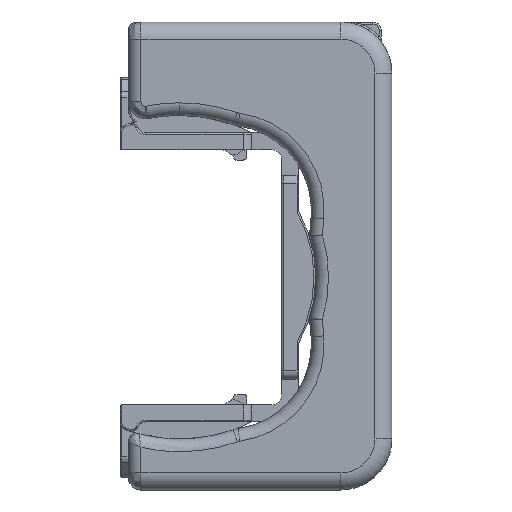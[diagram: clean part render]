
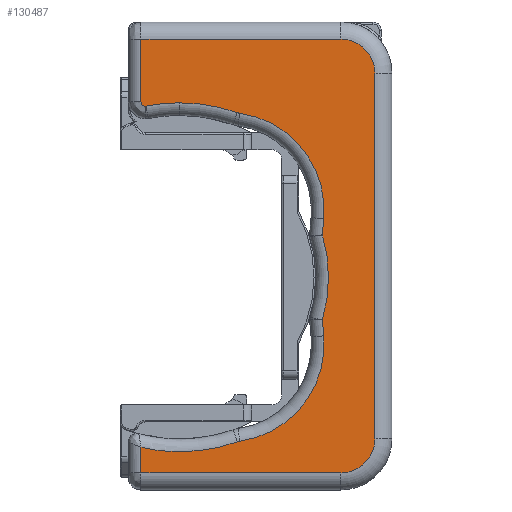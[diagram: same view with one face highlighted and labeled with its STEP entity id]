
A CAD part, left-side view. The second image highlights one B-rep face of the part: STEP entity #130487.
In plain terms, the highlighted planar face has unit normal (-1, 0, 0).
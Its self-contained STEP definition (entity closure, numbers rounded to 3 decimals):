
#8499=CARTESIAN_POINT('',(-33.637,-8.713,
3.331));
#9375=DIRECTION('',(0.,-1.,0.));
#9376=VECTOR('',#9375,23.5);
#9377=CARTESIAN_POINT('',(-33.637,12.605,26.356));
#9378=LINE('',#9377,#9376);
#10033=CARTESIAN_POINT('',(-33.637,12.605,
-21.635));
#10057=DIRECTION('',(0.,0.,1.));
#10058=VECTOR('',#10057,3.009);
#10059=CARTESIAN_POINT('',(-33.637,12.605,
-24.644));
#10060=LINE('',#10059,#10058);
#10716=DIRECTION('',(0.,0.,-1.));
#10717=VECTOR('',#10716,43.);
#10718=CARTESIAN_POINT('',(-33.637,-14.895,
22.356));
#10719=LINE('',#10718,#10717);
#12279=CARTESIAN_POINT('',(-33.637,-8.713,
-6.619));
#19847=DIRECTION('',(0.,0.,1.));
#19848=VECTOR('',#19847,7.392);
#19849=CARTESIAN_POINT('',(-33.637,12.605,
18.964));
#19850=LINE('',#19849,#19848);
#22226=DIRECTION('',(0.,1.,0.));
#22227=VECTOR('',#22226,23.5);
#22228=CARTESIAN_POINT('',(-33.637,-10.895,
-24.644));
#22229=LINE('',#22228,#22227);
#26856=CARTESIAN_POINT('',(-33.637,-10.895,
22.356));
#26857=DIRECTION('',(-1.,0.,0.));
#26858=DIRECTION('',(0.,-1.,0.));
#26859=AXIS2_PLACEMENT_3D('',#26856,#26857,#26858);
#26864=CARTESIAN_POINT('',(-33.637,-10.895,
-20.644));
#26865=DIRECTION('',(-1.,0.,0.));
#26866=DIRECTION('',(0.,0.,-1.));
#26867=AXIS2_PLACEMENT_3D('',#26864,#26865,#26866);
#26872=CARTESIAN_POINT('',(-33.637,8.065,
-1.644));
#26873=DIRECTION('',(1.,0.,0.));
#26874=DIRECTION('',(0.,0.,-1.));
#26875=AXIS2_PLACEMENT_3D('',#26872,#26873,#26874);
#26880=CARTESIAN_POINT('',(-33.637,8.065,
-1.644));
#26881=DIRECTION('',(1.,0.,0.));
#26882=DIRECTION('',(0.,-0.331,-0.944));
#26883=AXIS2_PLACEMENT_3D('',#26880,#26881,#26882);
#26888=CARTESIAN_POINT('',(-33.637,0.78,
-22.403));
#26889=DIRECTION('',(-1.,0.,0.));
#26890=DIRECTION('',(0.,0.138,0.99));
#26891=AXIS2_PLACEMENT_3D('',#26888,#26889,#26890);
#26896=CARTESIAN_POINT('',(-33.637,2.577,
-9.527));
#26897=DIRECTION('',(1.,0.,0.));
#26898=DIRECTION('',(0.,-0.996,0.087));
#26899=AXIS2_PLACEMENT_3D('',#26896,#26897,#26898);
#26904=DIRECTION('',(0.,-0.087,-0.996));
#26905=VECTOR('',#26904,1.914);
#26906=CARTESIAN_POINT('',(-33.637,-8.713,
-6.619));
#26907=LINE('',#26906,#26905);
#26911=CARTESIAN_POINT('',(-33.637,8.065,
-1.644));
#26912=DIRECTION('',(1.,0.,0.));
#26913=DIRECTION('',(0.,-0.959,0.284));
#26914=AXIS2_PLACEMENT_3D('',#26911,#26912,#26913);
#26919=DIRECTION('',(0.,0.087,-0.996));
#26920=VECTOR('',#26919,1.914);
#26921=CARTESIAN_POINT('',(-33.637,-8.88,
5.237));
#26922=LINE('',#26921,#26920);
#26926=CARTESIAN_POINT('',(-33.637,2.577,
6.24));
#26927=DIRECTION('',(1.,0.,0.));
#26928=DIRECTION('',(0.,-0.138,0.99));
#26929=AXIS2_PLACEMENT_3D('',#26926,#26927,#26928);
#26934=CARTESIAN_POINT('',(-33.637,0.78,
19.115));
#26935=DIRECTION('',(-1.,0.,0.));
#26936=DIRECTION('',(0.,0.331,-0.944));
#26937=AXIS2_PLACEMENT_3D('',#26934,#26935,#26936);
#26942=CARTESIAN_POINT('',(-33.637,8.065,
-1.644));
#26943=DIRECTION('',(1.,0.,0.));
#26944=DIRECTION('',(0.,0.,1.));
#26945=AXIS2_PLACEMENT_3D('',#26942,#26943,#26944);
#26950=CARTESIAN_POINT('',(-33.637,8.065,
-1.644));
#26951=DIRECTION('',(1.,0.,0.));
#26952=DIRECTION('',(0.,0.192,0.981));
#26953=AXIS2_PLACEMENT_3D('',#26950,#26951,#26952);
#26958=CARTESIAN_POINT('',(-33.637,12.105,
18.964));
#26959=DIRECTION('',(-1.,0.,0.));
#26960=DIRECTION('',(0.,0.,-1.));
#26961=AXIS2_PLACEMENT_3D('',#26958,#26959,#26960);
#26966=CARTESIAN_POINT('',(-33.637,12.105,
18.964));
#26967=DIRECTION('',(-1.,0.,0.));
#26968=DIRECTION('',(0.,1.,0.));
#26969=AXIS2_PLACEMENT_3D('',#26966,#26967,#26968);
#85545=CARTESIAN_POINT('',(-33.637,-14.895,
22.356));
#85547=VERTEX_POINT('',#85545);
#85565=CARTESIAN_POINT('',(-33.637,-10.895,
-24.644));
#85566=CARTESIAN_POINT('',(-33.637,12.605,
-24.644));
#85567=VERTEX_POINT('',#85565);
#85568=VERTEX_POINT('',#85566);
#85809=VERTEX_POINT('',#10033);
#86120=CARTESIAN_POINT('',(-33.637,1.277,
17.7));
#86121=CARTESIAN_POINT('',(-33.637,0.987,
17.629));
#86122=VERTEX_POINT('',#86120);
#86123=VERTEX_POINT('',#86121);
#86273=CARTESIAN_POINT('',(-33.637,-8.88,
-8.525));
#86274=CARTESIAN_POINT('',(-33.637,0.987,
-20.917));
#86275=VERTEX_POINT('',#86273);
#86276=VERTEX_POINT('',#86274);
#86518=CARTESIAN_POINT('',(-33.637,-14.895,
-20.644));
#86519=VERTEX_POINT('',#86518);
#86595=CARTESIAN_POINT('',(-33.637,-8.88,
5.237));
#86596=VERTEX_POINT('',#86595);
#87095=CARTESIAN_POINT('',(-33.637,12.105,
18.464));
#87096=CARTESIAN_POINT('',(-33.637,12.009,
18.473));
#87097=VERTEX_POINT('',#87095);
#87098=VERTEX_POINT('',#87096);
#87573=CARTESIAN_POINT('',(-33.637,12.605,
26.356));
#87575=VERTEX_POINT('',#87573);
#87795=VERTEX_POINT('',#12279);
#87837=CARTESIAN_POINT('',(-33.637,1.277,
-20.987));
#87838=VERTEX_POINT('',#87837);
#87926=CARTESIAN_POINT('',(-33.637,8.065,
18.856));
#87927=VERTEX_POINT('',#87926);
#87960=CARTESIAN_POINT('',(-33.637,12.605,
18.964));
#87961=VERTEX_POINT('',#87960);
#88044=CARTESIAN_POINT('',(-33.637,-10.895,
26.356));
#88045=VERTEX_POINT('',#88044);
#88094=CARTESIAN_POINT('',(-33.637,8.065,
-22.144));
#88095=VERTEX_POINT('',#88094);
#88169=VERTEX_POINT('',#8499);
#130460=CARTESIAN_POINT('',(-33.637,-14.199,
-1.644));
#130461=DIRECTION('',(-1.,0.,0.));
#130462=DIRECTION('',(0.,0.,1.));
#130463=AXIS2_PLACEMENT_3D('',#130460,#130461,#130462);
#130464=PLANE('',#130463);
#130465=ORIENTED_EDGE('',*,*,#107852,.T.);
#130466=ORIENTED_EDGE('',*,*,#123341,.F.);
#130467=ORIENTED_EDGE('',*,*,#109755,.T.);
#130468=ORIENTED_EDGE('',*,*,#120044,.F.);
#130469=ORIENTED_EDGE('',*,*,#123710,.T.);
#130470=ORIENTED_EDGE('',*,*,#108628,.T.);
#130471=ORIENTED_EDGE('',*,*,#98335,.F.);
#130472=ORIENTED_EDGE('',*,*,#98333,.F.);
#130473=ORIENTED_EDGE('',*,*,#129733,.F.);
#130474=ORIENTED_EDGE('',*,*,#127990,.F.);
#130475=ORIENTED_EDGE('',*,*,#111625,.F.);
#130476=ORIENTED_EDGE('',*,*,#111484,.F.);
#130477=ORIENTED_EDGE('',*,*,#106569,.F.);
#130478=ORIENTED_EDGE('',*,*,#115162,.F.);
#130479=ORIENTED_EDGE('',*,*,#120197,.F.);
#130480=ORIENTED_EDGE('',*,*,#109946,.F.);
#130481=ORIENTED_EDGE('',*,*,#109804,.F.);
#130482=ORIENTED_EDGE('',*,*,#111661,.F.);
#130483=ORIENTED_EDGE('',*,*,#121483,.F.);
#130484=ORIENTED_EDGE('',*,*,#120701,.T.);
#130485=EDGE_LOOP('',(#130465,#130466,#130467,#130468,#130469,#130470,#130471,
#130472,#130473,#130474,#130475,#130476,#130477,#130478,#130479,#130480,#130481,
#130482,#130483,#130484));
#130486=FACE_OUTER_BOUND('',#130485,.F.);
#26860=CIRCLE('',#26859,4.);
#26868=CIRCLE('',#26867,4.);
#26876=CIRCLE('',#26875,20.5);
#26884=CIRCLE('',#26883,20.5);
#26892=CIRCLE('',#26891,1.5);
#26900=CIRCLE('',#26899,11.5);
#26915=CIRCLE('',#26914,17.5);
#26930=CIRCLE('',#26929,11.5);
#26938=CIRCLE('',#26937,1.5);
#26946=CIRCLE('',#26945,20.5);
#26954=CIRCLE('',#26953,20.5);
#26962=CIRCLE('',#26961,0.5);
#26970=CIRCLE('',#26969,0.5);
#98333=EDGE_CURVE('',#87838,#88095,#26884,.T.);
#98335=EDGE_CURVE('',#88095,#85809,#26876,.T.);
#106569=EDGE_CURVE('',#86596,#88169,#26922,.T.);
#107852=EDGE_CURVE('',#87575,#88045,#9378,.T.);
#108628=EDGE_CURVE('',#85568,#85809,#10060,.T.);
#109755=EDGE_CURVE('',#85547,#86519,#10719,.T.);
#109804=EDGE_CURVE('',#87098,#87927,#26954,.T.);
#109946=EDGE_CURVE('',#87927,#86122,#26946,.T.);
#111484=EDGE_CURVE('',#88169,#87795,#26915,.T.);
#111625=EDGE_CURVE('',#87795,#86275,#26907,.T.);
#111661=EDGE_CURVE('',#87097,#87098,#26962,.T.);
#115162=EDGE_CURVE('',#86123,#86596,#26930,.T.);
#120044=EDGE_CURVE('',#85567,#86519,#26868,.T.);
#120197=EDGE_CURVE('',#86122,#86123,#26938,.T.);
#120701=EDGE_CURVE('',#87961,#87575,#19850,.T.);
#121483=EDGE_CURVE('',#87961,#87097,#26970,.T.);
#123341=EDGE_CURVE('',#85547,#88045,#26860,.T.);
#123710=EDGE_CURVE('',#85567,#85568,#22229,.T.);
#127990=EDGE_CURVE('',#86275,#86276,#26900,.T.);
#129733=EDGE_CURVE('',#86276,#87838,#26892,.T.);
#130487=ADVANCED_FACE('',(#130486),#130464,.T.);
